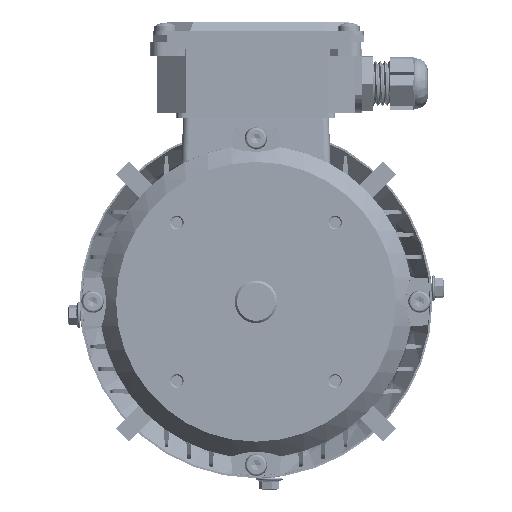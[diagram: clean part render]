
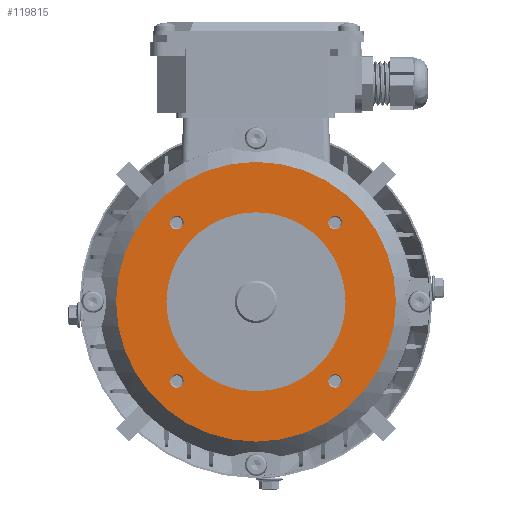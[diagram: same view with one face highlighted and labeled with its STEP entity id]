
A CAD part, front view. The second image highlights one B-rep face of the part: STEP entity #119815.
In plain terms, the highlighted planar face has unit normal (0, -1, 0).
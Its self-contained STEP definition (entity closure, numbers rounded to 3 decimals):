
#1039 = ORIENTED_EDGE ( 'NONE', *, *, #31940, .F. ) ;
#1133 = CARTESIAN_POINT ( 'NONE',  ( 35.355, 3., -38.38 ) ) ;
#1329 = CIRCLE ( 'NONE', #70492, 3.025 ) ;
#1901 = DIRECTION ( 'NONE',  ( 0., -1., 0. ) ) ;
#2455 = FACE_OUTER_BOUND ( 'NONE', #95763, .T. ) ;
#3262 = CARTESIAN_POINT ( 'NONE',  ( 0., 3., 40. ) ) ;
#3641 = DIRECTION ( 'NONE',  ( 0., 0., -1. ) ) ;
#3854 = AXIS2_PLACEMENT_3D ( 'NONE', #124782, #66936, #9083 ) ;
#5033 = DIRECTION ( 'NONE',  ( 0., -1., 0. ) ) ;
#6302 = EDGE_CURVE ( 'NONE', #14340, #76003, #73319, .T. ) ;
#7937 = CIRCLE ( 'NONE', #74847, 62.5 ) ;
#9083 = DIRECTION ( 'NONE',  ( 0., 0., -1. ) ) ;
#9471 = ORIENTED_EDGE ( 'NONE', *, *, #99017, .F. ) ;
#11436 = AXIS2_PLACEMENT_3D ( 'NONE', #75338, #17407, #85045 ) ;
#14340 = VERTEX_POINT ( 'NONE', #78369 ) ;
#17407 = DIRECTION ( 'NONE',  ( 0., -1., 0. ) ) ;
#17583 = CARTESIAN_POINT ( 'NONE',  ( 35.355, 3., 35.355 ) ) ;
#19580 = EDGE_CURVE ( 'NONE', #104642, #45576, #32992, .T. ) ;
#19849 = DIRECTION ( 'NONE',  ( 0., -1., 0. ) ) ;
#19963 = CARTESIAN_POINT ( 'NONE',  ( 35.355, 3., -35.355 ) ) ;
#26443 = ORIENTED_EDGE ( 'NONE', *, *, #19580, .F. ) ;
#26571 = EDGE_CURVE ( 'NONE', #48515, #106481, #7937, .T. ) ;
#27228 = DIRECTION ( 'NONE',  ( 0., -1., 0. ) ) ;
#27325 = DIRECTION ( 'NONE',  ( 0., 0., -1. ) ) ;
#28137 = FACE_BOUND ( 'NONE', #84936, .T. ) ;
#29693 = DIRECTION ( 'NONE',  ( 0., 0., -1. ) ) ;
#30824 = CARTESIAN_POINT ( 'NONE',  ( 35.355, 3., -32.33 ) ) ;
#31382 = EDGE_LOOP ( 'NONE', ( #37615, #9471 ) ) ;
#31940 = EDGE_CURVE ( 'NONE', #112015, #75157, #65879, .T. ) ;
#32992 = CIRCLE ( 'NONE', #103290, 3.025 ) ;
#33150 = EDGE_CURVE ( 'NONE', #71207, #99941, #33329, .T. ) ;
#33329 = CIRCLE ( 'NONE', #51842, 40. ) ;
#37615 = ORIENTED_EDGE ( 'NONE', *, *, #6302, .F. ) ;
#39730 = CARTESIAN_POINT ( 'NONE',  ( 0., 3., -40. ) ) ;
#45576 = VERTEX_POINT ( 'NONE', #1133 ) ;
#46231 = ORIENTED_EDGE ( 'NONE', *, *, #73119, .F. ) ;
#46791 = EDGE_LOOP ( 'NONE', ( #120884, #1039 ) ) ;
#48515 = VERTEX_POINT ( 'NONE', #106661 ) ;
#51842 = AXIS2_PLACEMENT_3D ( 'NONE', #114115, #56274, #123835 ) ;
#53635 = DIRECTION ( 'NONE',  ( 0., -1., 0. ) ) ;
#53896 = FACE_BOUND ( 'NONE', #46791, .T. ) ;
#54342 = ORIENTED_EDGE ( 'NONE', *, *, #75660, .F. ) ;
#55037 = ORIENTED_EDGE ( 'NONE', *, *, #68719, .F. ) ;
#55842 = AXIS2_PLACEMENT_3D ( 'NONE', #59730, #1901, #69484 ) ;
#55946 = CARTESIAN_POINT ( 'NONE',  ( 0., 3., 0. ) ) ;
#56167 = CARTESIAN_POINT ( 'NONE',  ( 0., 3., 62.5 ) ) ;
#56274 = DIRECTION ( 'NONE',  ( 0., -1., 0. ) ) ;
#56563 = CARTESIAN_POINT ( 'NONE',  ( 35.355, 3., 35.355 ) ) ;
#58322 = CARTESIAN_POINT ( 'NONE',  ( 40., 3., 0. ) ) ;
#59730 = CARTESIAN_POINT ( 'NONE',  ( -35.355, 3., 35.355 ) ) ;
#60594 = ORIENTED_EDGE ( 'NONE', *, *, #117968, .F. ) ;
#60621 = VERTEX_POINT ( 'NONE', #92478 ) ;
#61503 = DIRECTION ( 'NONE',  ( 0., -1., 0. ) ) ;
#62881 = CARTESIAN_POINT ( 'NONE',  ( 35.355, 3., -35.355 ) ) ;
#63731 = VERTEX_POINT ( 'NONE', #96702 ) ;
#63747 = EDGE_LOOP ( 'NONE', ( #67132, #46231 ) ) ;
#63862 = ORIENTED_EDGE ( 'NONE', *, *, #26571, .T. ) ;
#65645 = DIRECTION ( 'NONE',  ( 0., 0., -1. ) ) ;
#65879 = CIRCLE ( 'NONE', #96220, 3.025 ) ;
#66260 = DIRECTION ( 'NONE',  ( 0., 0., -1. ) ) ;
#66574 = ORIENTED_EDGE ( 'NONE', *, *, #105538, .T. ) ;
#66936 = DIRECTION ( 'NONE',  ( 0., -1., 0. ) ) ;
#67132 = ORIENTED_EDGE ( 'NONE', *, *, #33150, .F. ) ;
#68716 = CARTESIAN_POINT ( 'NONE',  ( 35.355, 3., 32.33 ) ) ;
#68719 = EDGE_CURVE ( 'NONE', #60621, #63731, #78928, .T. ) ;
#69484 = DIRECTION ( 'NONE',  ( 0., 0., -1. ) ) ;
#70492 = AXIS2_PLACEMENT_3D ( 'NONE', #85138, #27228, #94835 ) ;
#71207 = VERTEX_POINT ( 'NONE', #39730 ) ;
#72626 = DIRECTION ( 'NONE',  ( 0., 0., -1. ) ) ;
#73119 = EDGE_CURVE ( 'NONE', #99941, #71207, #99385, .T. ) ;
#73319 = CIRCLE ( 'NONE', #76272, 3.025 ) ;
#74847 = AXIS2_PLACEMENT_3D ( 'NONE', #111444, #53635, #121176 ) ;
#75157 = VERTEX_POINT ( 'NONE', #68716 ) ;
#75338 = CARTESIAN_POINT ( 'NONE',  ( -35.355, 3., -35.355 ) ) ;
#75660 = EDGE_CURVE ( 'NONE', #45576, #104642, #113924, .T. ) ;
#76003 = VERTEX_POINT ( 'NONE', #92600 ) ;
#76272 = AXIS2_PLACEMENT_3D ( 'NONE', #119363, #61503, #3641 ) ;
#78369 = CARTESIAN_POINT ( 'NONE',  ( -35.355, 3., -38.38 ) ) ;
#78928 = CIRCLE ( 'NONE', #55842, 3.025 ) ;
#79548 = FACE_BOUND ( 'NONE', #31382, .T. ) ;
#84026 = AXIS2_PLACEMENT_3D ( 'NONE', #19963, #87602, #29693 ) ;
#84936 = EDGE_LOOP ( 'NONE', ( #54342, #26443 ) ) ;
#85045 = DIRECTION ( 'NONE',  ( 0., 0., -1. ) ) ;
#85138 = CARTESIAN_POINT ( 'NONE',  ( -35.355, 3., 35.355 ) ) ;
#85227 = DIRECTION ( 'NONE',  ( 0., -1., 0. ) ) ;
#87473 = DIRECTION ( 'NONE',  ( 0., 0., -1. ) ) ;
#87602 = DIRECTION ( 'NONE',  ( 0., -1., 0. ) ) ;
#87820 = EDGE_CURVE ( 'NONE', #75157, #112015, #103786, .T. ) ;
#89627 = CIRCLE ( 'NONE', #3854, 62.5 ) ;
#90645 = AXIS2_PLACEMENT_3D ( 'NONE', #17583, #85227, #27325 ) ;
#92478 = CARTESIAN_POINT ( 'NONE',  ( -35.355, 3., 38.38 ) ) ;
#92485 = AXIS2_PLACEMENT_3D ( 'NONE', #58322, #19849, #87473 ) ;
#92600 = CARTESIAN_POINT ( 'NONE',  ( -35.355, 3., -32.33 ) ) ;
#94835 = DIRECTION ( 'NONE',  ( 0., 0., -1. ) ) ;
#95427 = CARTESIAN_POINT ( 'NONE',  ( 35.355, 3., 38.38 ) ) ;
#95763 = EDGE_LOOP ( 'NONE', ( #66574, #63862 ) ) ;
#96220 = AXIS2_PLACEMENT_3D ( 'NONE', #56563, #124119, #66260 ) ;
#96702 = CARTESIAN_POINT ( 'NONE',  ( -35.355, 3., 32.33 ) ) ;
#99017 = EDGE_CURVE ( 'NONE', #76003, #14340, #114623, .T. ) ;
#99385 = CIRCLE ( 'NONE', #101620, 40. ) ;
#99941 = VERTEX_POINT ( 'NONE', #3262 ) ;
#101620 = AXIS2_PLACEMENT_3D ( 'NONE', #55946, #123511, #65645 ) ;
#102231 = FACE_BOUND ( 'NONE', #63747, .T. ) ;
#103290 = AXIS2_PLACEMENT_3D ( 'NONE', #62881, #5033, #72626 ) ;
#103786 = CIRCLE ( 'NONE', #90645, 3.025 ) ;
#104642 = VERTEX_POINT ( 'NONE', #30824 ) ;
#105222 = FACE_BOUND ( 'NONE', #112518, .T. ) ;
#105538 = EDGE_CURVE ( 'NONE', #106481, #48515, #89627, .T. ) ;
#106461 = PLANE ( 'NONE',  #92485 ) ;
#106481 = VERTEX_POINT ( 'NONE', #56167 ) ;
#106661 = CARTESIAN_POINT ( 'NONE',  ( 0., 3., -62.5 ) ) ;
#111444 = CARTESIAN_POINT ( 'NONE',  ( 0., 3., 0. ) ) ;
#112015 = VERTEX_POINT ( 'NONE', #95427 ) ;
#112518 = EDGE_LOOP ( 'NONE', ( #60594, #55037 ) ) ;
#113924 = CIRCLE ( 'NONE', #84026, 3.025 ) ;
#114115 = CARTESIAN_POINT ( 'NONE',  ( 0., 3., 0. ) ) ;
#114623 = CIRCLE ( 'NONE', #11436, 3.025 ) ;
#117968 = EDGE_CURVE ( 'NONE', #63731, #60621, #1329, .T. ) ;
#119363 = CARTESIAN_POINT ( 'NONE',  ( -35.355, 3., -35.355 ) ) ;
#119815 = ADVANCED_FACE ( 'NONE', ( #105222, #53896, #79548, #28137, #2455, #102231 ), #106461, .T. ) ;
#120884 = ORIENTED_EDGE ( 'NONE', *, *, #87820, .F. ) ;
#121176 = DIRECTION ( 'NONE',  ( 0., 0., -1. ) ) ;
#123511 = DIRECTION ( 'NONE',  ( 0., -1., 0. ) ) ;
#123835 = DIRECTION ( 'NONE',  ( 0., 0., -1. ) ) ;
#124119 = DIRECTION ( 'NONE',  ( 0., -1., 0. ) ) ;
#124782 = CARTESIAN_POINT ( 'NONE',  ( 0., 3., 0. ) ) ;
